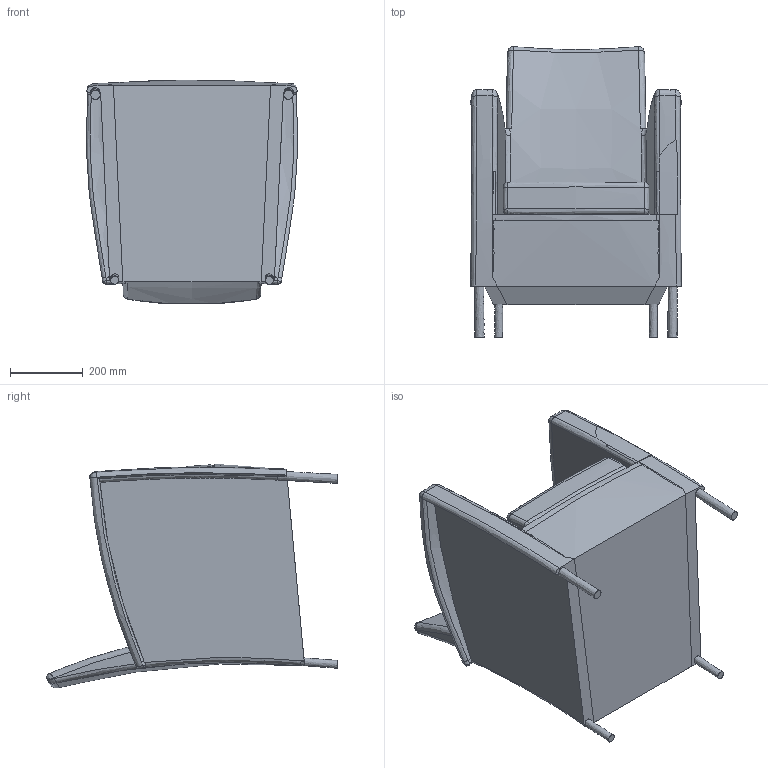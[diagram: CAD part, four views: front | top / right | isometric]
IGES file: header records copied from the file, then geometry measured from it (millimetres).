
Global section: file name: VincentSheppard_DovileDC; native system: unknown; preprocessor: unknown; author: ict@vincentsheppard.com; organization: unknown; date: 20180515.104454; units: millimetre
Bounding box: 579.76 x 797.85 x 613.56 mm (x, y, z)
Volume: 91910165.3 mm3; surface area: 2662912.5 mm2
Topology: 2 solids, 2 shells, 148 faces, 373 edges, 230 vertices
Faces by surface type: bspline 148
